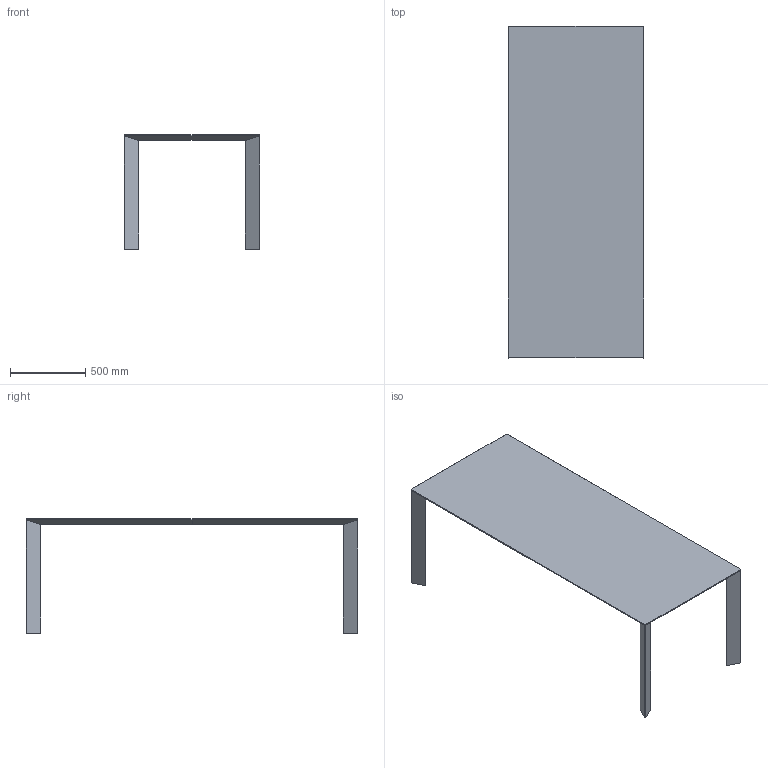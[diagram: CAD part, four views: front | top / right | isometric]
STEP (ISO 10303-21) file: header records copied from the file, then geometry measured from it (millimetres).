
FILE_DESCRIPTION(/* description */ (''),/* implementation_level */ '2;1');
FILE_NAME(/* name */ 'K-2',/* time_stamp */ '2021-10-18T21:21:37+02:00',/* author */ (''),/* organization */ (''),/* preprocessor_version */ 'ST-DEVELOPER v16.5',/* originating_system */ '',/* authorisation */ '');
FILE_SCHEMA (('AUTOMOTIVE_DESIGN'));
Length unit declared in the file: millimetre
Products named in the file (1): Document
Bounding box: 900.35 x 2200 x 757 mm (x, y, z)
Surface area: 4864091.7 mm2 (no closed solid volume)
Topology: 0 solids, 1 shells, 33 faces, 81 edges, 46 vertices
Faces by surface type: plane 19, bspline 14
Entity records: 872 total; most frequent: CARTESIAN_POINT 323, ORIENTED_EDGE 146, EDGE_CURVE 81, B_SPLINE_CURVE_WITH_KNOTS 81, VERTEX_POINT 46, ADVANCED_FACE 33, FACE_OUTER_BOUND 33, EDGE_LOOP 33
